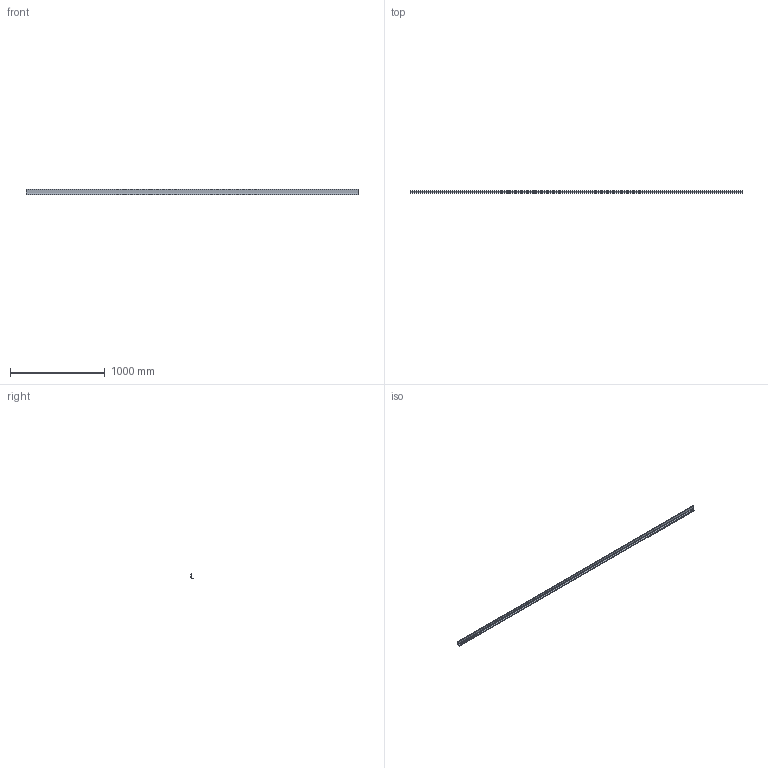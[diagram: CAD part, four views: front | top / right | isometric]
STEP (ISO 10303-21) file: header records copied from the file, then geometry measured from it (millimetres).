
FILE_DESCRIPTION( ( 'STEP AP214' ), '1' );
FILE_NAME( 'C:/Users/swati/Swati/Swati/handle/New folder/9207443/9210115.stp', ' ', ( ' ' ), ( ' ' ), 'PSStep 15.0.47', 'PARTsolutions', ' ' );
FILE_SCHEMA( ( 'AUTOMOTIVE_DESIGN { 1 0 10303 214 1 1 1 1 }' ) );
Length unit declared in the file: millimetre
Products named in the file (2): 95 ; _
Assembly tree (1 placements, depth 2):
  95 
    _
Bounding box: 3500 x 23.01 x 53.5 mm (x, y, z)
Volume: 514314.1 mm3; surface area: 584669.4 mm2
Topology: 1 solids, 1 shells, 29 faces, 81 edges, 54 vertices
Faces by surface type: plane 25, cylinder 4
Entity records: 1193 total; most frequent: CARTESIAN_POINT 166, ORIENTED_EDGE 162, DIRECTION 151, EDGE_CURVE 81, LINE 73, VECTOR 73, VERTEX_POINT 54, AXIS2_PLACEMENT_3D 39
